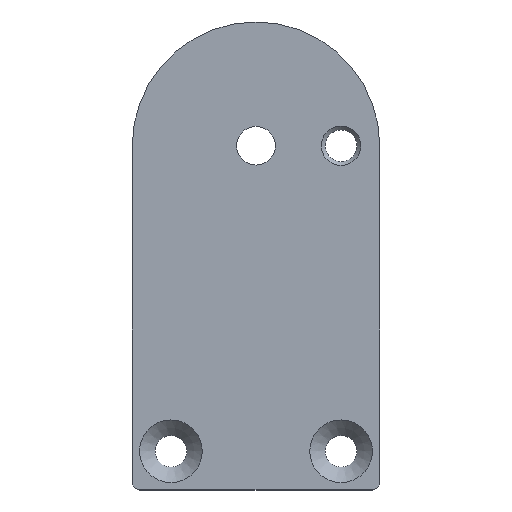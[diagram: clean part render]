
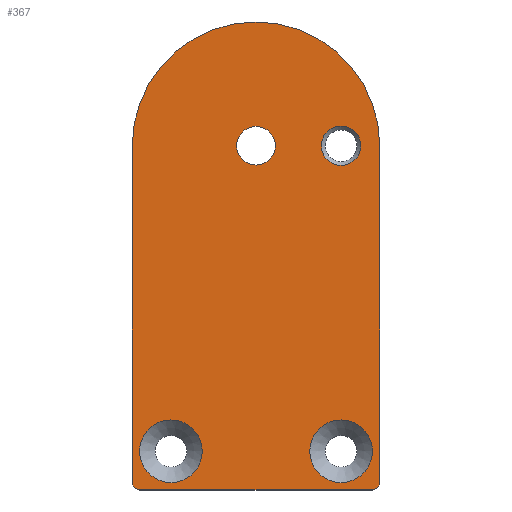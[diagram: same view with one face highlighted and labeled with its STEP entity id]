
A CAD part, top view. The second image highlights one B-rep face of the part: STEP entity #367.
In plain terms, the highlighted planar face has unit normal (0, 0, 1).
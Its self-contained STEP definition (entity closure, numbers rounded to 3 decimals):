
#23=FACE_BOUND('',#66,.T.);
#24=FACE_BOUND('',#67,.T.);
#25=FACE_BOUND('',#68,.T.);
#26=FACE_BOUND('',#69,.T.);
#32=PLANE('',#406);
#42=FACE_OUTER_BOUND('',#65,.T.);
#65=EDGE_LOOP('',(#262,#263,#264,#265,#266,#267));
#66=EDGE_LOOP('',(#268));
#67=EDGE_LOOP('',(#269));
#68=EDGE_LOOP('',(#270));
#69=EDGE_LOOP('',(#271));
#97=LINE('',#581,#126);
#98=LINE('',#585,#127);
#99=LINE('',#588,#128);
#126=VECTOR('',#461,10.);
#127=VECTOR('',#464,10.);
#128=VECTOR('',#467,10.);
#155=CIRCLE('',#405,4.05);
#156=CIRCLE('',#407,16.);
#157=CIRCLE('',#408,1.);
#158=CIRCLE('',#409,1.);
#159=CIRCLE('',#410,4.05);
#160=CIRCLE('',#411,2.55);
#161=CIRCLE('',#412,2.5);
#177=VERTEX_POINT('',#573);
#178=VERTEX_POINT('',#577);
#179=VERTEX_POINT('',#578);
#180=VERTEX_POINT('',#580);
#181=VERTEX_POINT('',#582);
#182=VERTEX_POINT('',#584);
#183=VERTEX_POINT('',#586);
#184=VERTEX_POINT('',#589);
#185=VERTEX_POINT('',#591);
#186=VERTEX_POINT('',#593);
#209=EDGE_CURVE('',#177,#177,#155,.T.);
#210=EDGE_CURVE('',#178,#179,#156,.T.);
#211=EDGE_CURVE('',#179,#180,#97,.F.);
#212=EDGE_CURVE('',#181,#180,#157,.T.);
#213=EDGE_CURVE('',#182,#181,#98,.T.);
#214=EDGE_CURVE('',#183,#182,#158,.T.);
#215=EDGE_CURVE('',#183,#178,#99,.F.);
#216=EDGE_CURVE('',#184,#184,#159,.T.);
#217=EDGE_CURVE('',#185,#185,#160,.T.);
#218=EDGE_CURVE('',#186,#186,#161,.F.);
#262=ORIENTED_EDGE('',*,*,#210,.T.);
#263=ORIENTED_EDGE('',*,*,#211,.T.);
#264=ORIENTED_EDGE('',*,*,#212,.F.);
#265=ORIENTED_EDGE('',*,*,#213,.F.);
#266=ORIENTED_EDGE('',*,*,#214,.F.);
#267=ORIENTED_EDGE('',*,*,#215,.T.);
#268=ORIENTED_EDGE('',*,*,#216,.F.);
#269=ORIENTED_EDGE('',*,*,#217,.F.);
#270=ORIENTED_EDGE('',*,*,#218,.T.);
#271=ORIENTED_EDGE('',*,*,#209,.F.);
#367=ADVANCED_FACE('',(#42,#23,#24,#25,#26),#32,.T.);
#405=AXIS2_PLACEMENT_3D('',#575,#455,#456);
#406=AXIS2_PLACEMENT_3D('',#576,#457,#458);
#407=AXIS2_PLACEMENT_3D('',#579,#459,#460);
#408=AXIS2_PLACEMENT_3D('',#583,#462,#463);
#409=AXIS2_PLACEMENT_3D('',#587,#465,#466);
#410=AXIS2_PLACEMENT_3D('',#590,#468,#469);
#411=AXIS2_PLACEMENT_3D('',#592,#470,#471);
#412=AXIS2_PLACEMENT_3D('',#594,#472,#473);
#455=DIRECTION('center_axis',(0.,0.,
1.));
#456=DIRECTION('ref_axis',(-1.,0.,0.));
#457=DIRECTION('center_axis',(0.,0.,
1.));
#458=DIRECTION('ref_axis',(1.,0.,0.));
#459=DIRECTION('center_axis',(0.,0.,
1.));
#460=DIRECTION('ref_axis',(1.,0.,0.));
#461=DIRECTION('',(0.,1.,0.));
#462=DIRECTION('center_axis',(0.,0.,
-1.));
#463=DIRECTION('ref_axis',(-0.707,-0.707,0.));
#464=DIRECTION('',(-1.,0.,0.));
#465=DIRECTION('center_axis',(0.,0.,
-1.));
#466=DIRECTION('ref_axis',(0.707,-0.707,0.));
#467=DIRECTION('',(0.,-1.,0.));
#468=DIRECTION('center_axis',(0.,0.,
1.));
#469=DIRECTION('ref_axis',(-1.,0.,0.));
#470=DIRECTION('center_axis',(0.,0.,
1.));
#471=DIRECTION('ref_axis',(1.,0.,0.));
#472=DIRECTION('center_axis',(0.,0.,
1.));
#473=DIRECTION('ref_axis',(1.,0.,0.));
#573=CARTESIAN_POINT('',(590.55,265.5,60.764));
#575=CARTESIAN_POINT('Origin',(586.5,265.5,60.764));
#576=CARTESIAN_POINT('Origin',(575.5,292.75,60.764));
#577=CARTESIAN_POINT('',(591.5,305.,60.764));
#578=CARTESIAN_POINT('',(559.5,305.,60.764));
#579=CARTESIAN_POINT('Origin',(575.5,305.,60.764));
#580=CARTESIAN_POINT('',(559.5,261.5,60.764));
#581=CARTESIAN_POINT('',(559.5,281.625,60.764));
#582=CARTESIAN_POINT('',(560.5,260.5,60.764));
#583=CARTESIAN_POINT('Origin',(560.5,261.5,60.764));
#584=CARTESIAN_POINT('',(590.5,260.5,60.764));
#585=CARTESIAN_POINT('',(575.5,260.5,60.764));
#586=CARTESIAN_POINT('',(591.5,261.5,60.764));
#587=CARTESIAN_POINT('Origin',(590.5,261.5,60.764));
#588=CARTESIAN_POINT('',(591.5,281.625,60.764));
#589=CARTESIAN_POINT('',(568.55,265.5,60.764));
#590=CARTESIAN_POINT('Origin',(564.5,265.5,60.764));
#591=CARTESIAN_POINT('',(583.95,305.,60.764));
#592=CARTESIAN_POINT('Origin',(586.5,305.,60.764));
#593=CARTESIAN_POINT('',(573.,305.,60.764));
#594=CARTESIAN_POINT('Origin',(575.5,305.,60.764));
